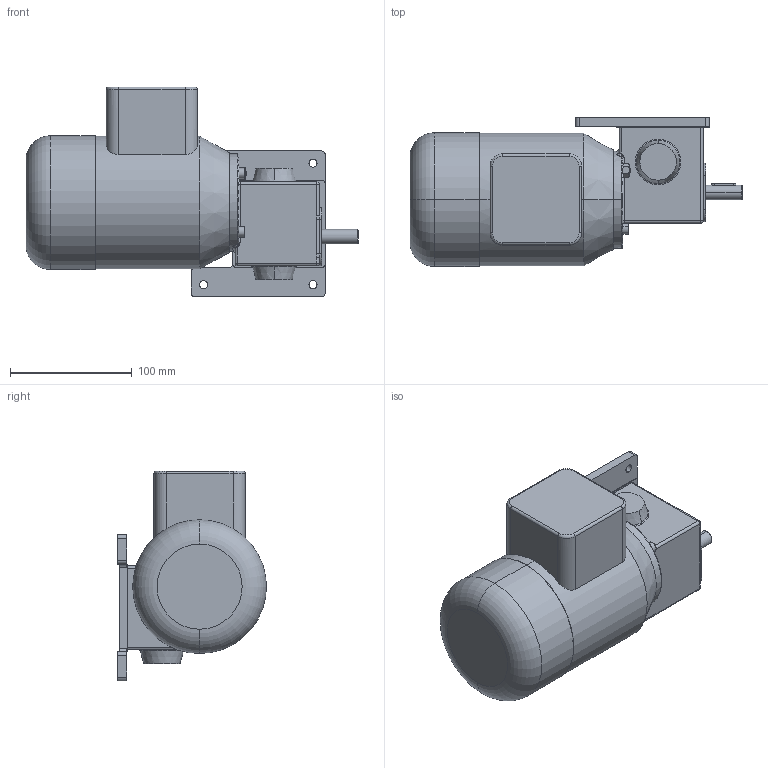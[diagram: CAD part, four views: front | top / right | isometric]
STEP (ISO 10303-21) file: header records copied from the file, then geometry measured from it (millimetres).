
FILE_DESCRIPTION (( 'STEP AP214' ), '1' );
FILE_NAME ('SN4_120W_2800Upm_Drehstrom-Motor.STEP', '2021-08-11T06:53:24', ( '' ), ( '' ), 'SwSTEP 2.0', 'SolidWorks 2019', '' );
FILE_SCHEMA (( 'AUTOMOTIVE_DESIGN' ));
Length unit declared in the file: millimetre
Products named in the file (14): slotted pan head screw_din_DIN EN ISO 1580 - M5 x 12 - 12C; hex nut style 1 gradeab_din_Hexagon Nut ISO 4032 - M6 - D - C; 04-D-003; 04-G-006_3D_Export; socket head cap screw_din_DIN 912 M5 x 16 --- 16C; 04-M-081 I 120W_2800Upm; K_26x6,5; NBR_WDR_12x37x10; socket set screw flat point_din_DIN 913 - M5 x 25-C; PF_A4x4x20; 04B-W-003_3D_Export; SN4_3D_Export; SN4_120W_2800Upm_Drehstrom-Motor; hex bolt gradeab_din_DIN EN 24014 - M5 x 25 x 25-C
Assembly tree (17 placements, depth 3):
  SN4_120W_2800Upm_Drehstrom-Motor
    SN4_3D_Export
      04-G-006_3D_Export
      04B-W-003_3D_Export
      04-D-003
      K_26x6,5
      NBR_WDR_12x37x10
      PF_A4x4x20
      socket head cap screw_din_DIN 912 M5 x 16 --- 16C  x2
      hex bolt gradeab_din_DIN EN 24014 - M5 x 25 x 25-C
      socket set screw flat point_din_DIN 913 - M5 x 25-C
      hex nut style 1 gradeab_din_Hexagon Nut ISO 4032 - M6 - D - C
      slotted pan head screw_din_DIN EN ISO 1580 - M5 x 12 - 12C  x4
    04-M-081 I 120W_2800Upm
Bounding box: 273 x 122.5 x 172.5 mm (x, y, z)
Volume: 2239643.8 mm3; surface area: 166882.2 mm2
Topology: 16 solids, 17 shells, 451 faces, 1014 edges, 610 vertices
Faces by surface type: cylinder 162, plane 162, cone 82, torus 34, bspline 8, sphere 3
Entity records: 12102 total; most frequent: CARTESIAN_POINT 2578, DIRECTION 1994, ORIENTED_EDGE 1698, EDGE_CURVE 849, AXIS2_PLACEMENT_3D 813, VERTEX_POINT 523, EDGE_LOOP 446, CIRCLE 415
